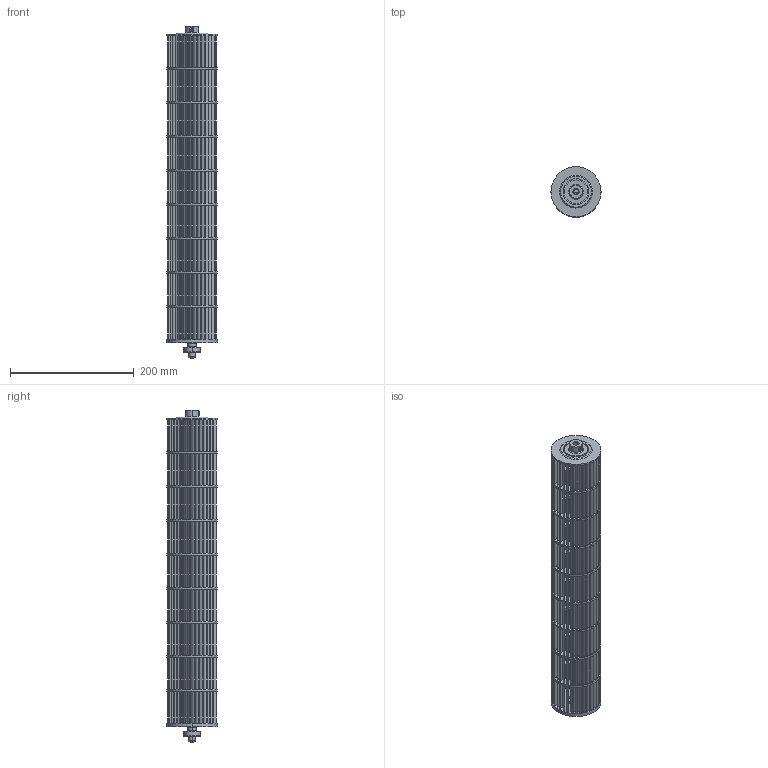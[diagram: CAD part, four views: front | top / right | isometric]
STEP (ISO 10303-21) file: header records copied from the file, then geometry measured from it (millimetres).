
FILE_DESCRIPTION(('CATIA V5 STEP Exchange'),'2;1');
FILE_NAME('C:\Users\sebas\cernbox\WINDOWS\Desktop\APPENDIX\DETAILED BLADE GEOMETRY FOR ROTOR DYNAMICS.stp','2026-06-16T12:08:34+00:00',('none'),('none'),'CATIA Version 5-6 Release 2017 SP6 HF16','CATIA V5 STEP AP203','none');
FILE_SCHEMA(('CONFIG_CONTROL_DESIGN'));
Length unit declared in the file: millimetre
Products named in the file (2): Product1; 02045810
Assembly tree (11 placements, depth 3):
  Product1
    #57
    #38722
    #39137
    #39289
    #39849
    02045810
      #40270
      #41292
      #41819
      #42448
    #43708
Bounding box: 81 x 81 x 537.5 mm (x, y, z)
Volume: 332548.6 mm3; surface area: 400391.6 mm2
Topology: 10 solids, 10 shells, 1514 faces, 4399 edges, 2875 vertices
Faces by surface type: cylinder 1334, plane 76, torus 42, cone 30, sphere 28, bspline 2, revolution 2
Entity records: 44454 total; most frequent: ORIENTED_EDGE 8686, CARTESIAN_POINT 8420, DIRECTION 4859, EDGE_CURVE 4343, AXIS2_PLACEMENT_3D 3125, VERTEX_POINT 2875, CIRCLE 2824, EDGE_LOOP 2172
